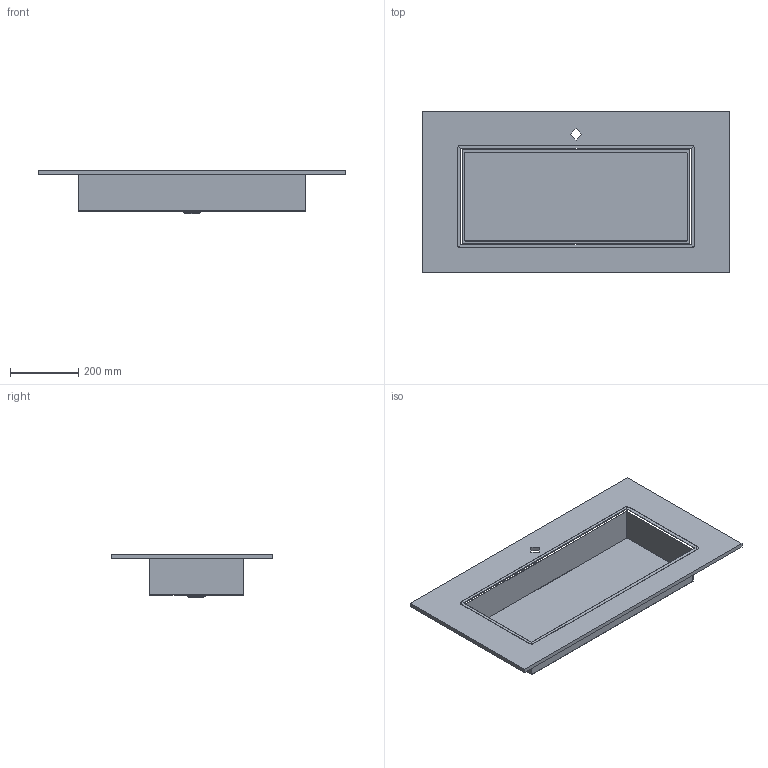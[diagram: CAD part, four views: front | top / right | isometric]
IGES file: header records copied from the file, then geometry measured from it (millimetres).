
Start section: Data from Parasolid IGES Translator 22.0.50, Copyright(c) 2006 Siemens P LM Software. All Rights Reserved.
Global section: file name: noorth-top-H 2 D 47,2 W 90_5461.igs; native system: By Siemens PLM Incorporated; preprocessor: XPlus GENERIC/IGES 22.0.50; author: Noname; organization: Noname; date: 20251109.202202; units: metre
Bounding box: 900 x 473 x 127.88 mm (x, y, z)
Volume: 27624363.3 mm3; surface area: 3629311.8 mm2
Topology: 3 solids, 3 shells, 3062 faces, 9071 edges, 8946 vertices
Faces by surface type: extrusion 2953, plane 66, bspline 34, cylinder 9
Full cylindrical faces by diameter (mm): 34.697 x1
